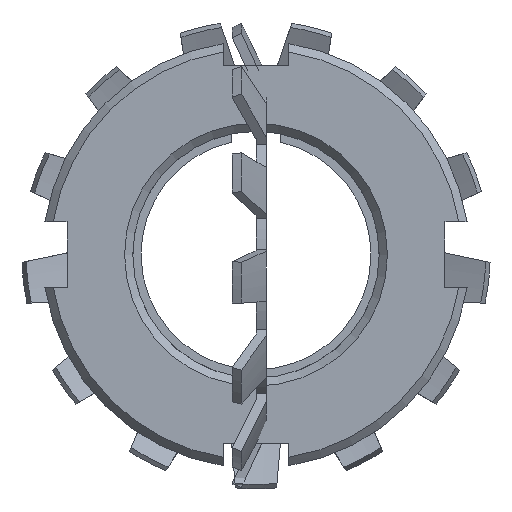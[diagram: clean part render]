
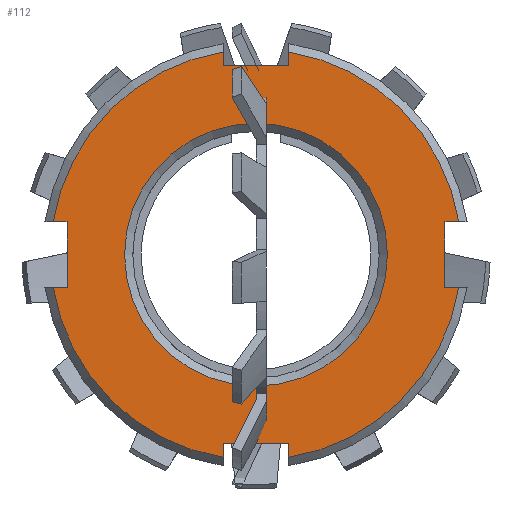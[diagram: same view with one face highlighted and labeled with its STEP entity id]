
A CAD part, front view. The second image highlights one B-rep face of the part: STEP entity #112.
In plain terms, the highlighted planar face has unit normal (0, -1, 0).
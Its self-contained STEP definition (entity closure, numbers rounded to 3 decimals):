
#112 = ADVANCED_FACE( '', ( #228, #229 ), #230, .F. );
#228 = FACE_BOUND( '', #358, .T. );
#229 = FACE_OUTER_BOUND( '', #359, .T. );
#230 = PLANE( '', #360 );
#358 = EDGE_LOOP( '', ( #666 ) );
#359 = EDGE_LOOP( '', ( #667, #668, #669, #670, #671, #672, #673, #674, #675, #676, #677, #678, #679, #680, #681, #682 ) );
#360 = AXIS2_PLACEMENT_3D( '', #683, #684, #685 );
#666 = ORIENTED_EDGE( '', *, *, #1070, .F. );
#667 = ORIENTED_EDGE( '', *, *, #1091, .F. );
#668 = ORIENTED_EDGE( '', *, *, #1063, .T. );
#669 = ORIENTED_EDGE( '', *, *, #1013, .T. );
#670 = ORIENTED_EDGE( '', *, *, #1092, .T. );
#671 = ORIENTED_EDGE( '', *, *, #1093, .F. );
#672 = ORIENTED_EDGE( '', *, *, #1053, .T. );
#673 = ORIENTED_EDGE( '', *, *, #1019, .T. );
#674 = ORIENTED_EDGE( '', *, *, #1041, .T. );
#675 = ORIENTED_EDGE( '', *, *, #1046, .F. );
#676 = ORIENTED_EDGE( '', *, *, #1094, .T. );
#677 = ORIENTED_EDGE( '', *, *, #1072, .T. );
#678 = ORIENTED_EDGE( '', *, *, #1051, .T. );
#679 = ORIENTED_EDGE( '', *, *, #1095, .F. );
#680 = ORIENTED_EDGE( '', *, *, #1096, .T. );
#681 = ORIENTED_EDGE( '', *, *, #1097, .T. );
#682 = ORIENTED_EDGE( '', *, *, #1098, .T. );
#683 = CARTESIAN_POINT( '', ( 0., -8.75, 26. ) );
#684 = DIRECTION( '', ( 0., 1., 0. ) );
#685 = DIRECTION( '', ( 0., 0., 1. ) );
#1013 = EDGE_CURVE( '', #1317, #1315, #1318, .T. );
#1019 = EDGE_CURVE( '', #1328, #1326, #1329, .T. );
#1041 = EDGE_CURVE( '', #1326, #1362, #1364, .F. );
#1046 = EDGE_CURVE( '', #1370, #1362, #1372, .T. );
#1051 = EDGE_CURVE( '', #1375, #1379, #1381, .F. );
#1053 = EDGE_CURVE( '', #1383, #1328, #1384, .T. );
#1063 = EDGE_CURVE( '', #1399, #1317, #1400, .T. );
#1070 = EDGE_CURVE( '', #1409, #1409, #1410, .T. );
#1072 = EDGE_CURVE( '', #1412, #1375, #1413, .T. );
#1091 = EDGE_CURVE( '', #1399, #1442, #1443, .T. );
#1092 = EDGE_CURVE( '', #1315, #1444, #1445, .F. );
#1093 = EDGE_CURVE( '', #1383, #1444, #1446, .T. );
#1094 = EDGE_CURVE( '', #1370, #1412, #1447, .T. );
#1095 = EDGE_CURVE( '', #1448, #1379, #1449, .T. );
#1096 = EDGE_CURVE( '', #1448, #1450, #1451, .T. );
#1097 = EDGE_CURVE( '', #1450, #1452, #1453, .T. );
#1098 = EDGE_CURVE( '', #1452, #1442, #1454, .F. );
#1315 = VERTEX_POINT( '', #2251 );
#1317 = VERTEX_POINT( '', #2259 );
#1318 = LINE( '', #2260, #2261 );
#1326 = VERTEX_POINT( '', #2274 );
#1328 = VERTEX_POINT( '', #2282 );
#1329 = LINE( '', #2283, #2284 );
#1362 = VERTEX_POINT( '', #2337 );
#1364 = CIRCLE( '', #2345, 25. );
#1370 = VERTEX_POINT( '', #2355 );
#1372 = LINE( '', #2358, #2359 );
#1375 = VERTEX_POINT( '', #2362 );
#1379 = VERTEX_POINT( '', #2372 );
#1381 = CIRCLE( '', #2380, 25. );
#1383 = VERTEX_POINT( '', #2382 );
#1384 = LINE( '', #2383, #2384 );
#1399 = VERTEX_POINT( '', #2409 );
#1400 = LINE( '', #2410, #2411 );
#1409 = VERTEX_POINT( '', #2428 );
#1410 = CIRCLE( '', #2429, 16. );
#1412 = VERTEX_POINT( '', #2431 );
#1413 = LINE( '', #2432, #2433 );
#1442 = VERTEX_POINT( '', #2496 );
#1443 = LINE( '', #2497, #2498 );
#1444 = VERTEX_POINT( '', #2499 );
#1445 = CIRCLE( '', #2500, 25. );
#1446 = LINE( '', #2501, #2502 );
#1447 = LINE( '', #2503, #2504 );
#1448 = VERTEX_POINT( '', #2505 );
#1449 = LINE( '', #2506, #2507 );
#1450 = VERTEX_POINT( '', #2508 );
#1451 = LINE( '', #2509, #2510 );
#1452 = VERTEX_POINT( '', #2511 );
#1453 = LINE( '', #2512, #2513 );
#1454 = CIRCLE( '', #2514, 25. );
#2251 = CARTESIAN_POINT( '', ( -24.678, -8.75, -4. ) );
#2259 = CARTESIAN_POINT( '', ( -23., -8.75, -4. ) );
#2260 = CARTESIAN_POINT( '', ( -26., -8.75, -4. ) );
#2261 = VECTOR( '', #2840, 1000. );
#2274 = CARTESIAN_POINT( '', ( 4., -8.75, -24.678 ) );
#2282 = CARTESIAN_POINT( '', ( 4., -8.75, -23. ) );
#2283 = CARTESIAN_POINT( '', ( 4., -8.75, -26. ) );
#2284 = VECTOR( '', #2843, 1000. );
#2337 = CARTESIAN_POINT( '', ( 24.678, -8.75, -4. ) );
#2345 = AXIS2_PLACEMENT_3D( '', #2864, #2865, #2866 );
#2355 = CARTESIAN_POINT( '', ( 23., -8.75, -4. ) );
#2358 = CARTESIAN_POINT( '', ( 26., -8.75, -4. ) );
#2359 = VECTOR( '', #2869, 1000. );
#2362 = CARTESIAN_POINT( '', ( 24.678, -8.75, 4. ) );
#2372 = CARTESIAN_POINT( '', ( 4., -8.75, 24.678 ) );
#2380 = AXIS2_PLACEMENT_3D( '', #2873, #2874, #2875 );
#2382 = CARTESIAN_POINT( '', ( -4., -8.75, -23. ) );
#2383 = CARTESIAN_POINT( '', ( -4., -8.75, -23. ) );
#2384 = VECTOR( '', #2876, 1000. );
#2409 = CARTESIAN_POINT( '', ( -23., -8.75, 4. ) );
#2410 = CARTESIAN_POINT( '', ( -23., -8.75, 4. ) );
#2411 = VECTOR( '', #2889, 1000. );
#2428 = CARTESIAN_POINT( '', ( 0., -8.75, -16. ) );
#2429 = AXIS2_PLACEMENT_3D( '', #2897, #2898, #2899 );
#2431 = CARTESIAN_POINT( '', ( 23., -8.75, 4. ) );
#2432 = CARTESIAN_POINT( '', ( 26., -8.75, 4. ) );
#2433 = VECTOR( '', #2900, 1000. );
#2496 = CARTESIAN_POINT( '', ( -24.678, -8.75, 4. ) );
#2497 = CARTESIAN_POINT( '', ( -26., -8.75, 4. ) );
#2498 = VECTOR( '', #2915, 1000. );
#2499 = CARTESIAN_POINT( '', ( -4., -8.75, -24.678 ) );
#2500 = AXIS2_PLACEMENT_3D( '', #2916, #2917, #2918 );
#2501 = CARTESIAN_POINT( '', ( -4., -8.75, -26. ) );
#2502 = VECTOR( '', #2919, 1000. );
#2503 = CARTESIAN_POINT( '', ( 23., -8.75, -4. ) );
#2504 = VECTOR( '', #2920, 1000. );
#2505 = CARTESIAN_POINT( '', ( 4., -8.75, 23. ) );
#2506 = CARTESIAN_POINT( '', ( 4., -8.75, 26. ) );
#2507 = VECTOR( '', #2921, 1000. );
#2508 = CARTESIAN_POINT( '', ( -4., -8.75, 23. ) );
#2509 = CARTESIAN_POINT( '', ( 4., -8.75, 23. ) );
#2510 = VECTOR( '', #2922, 1000. );
#2511 = CARTESIAN_POINT( '', ( -4., -8.75, 24.678 ) );
#2512 = CARTESIAN_POINT( '', ( -4., -8.75, 26. ) );
#2513 = VECTOR( '', #2923, 1000. );
#2514 = AXIS2_PLACEMENT_3D( '', #2924, #2925, #2926 );
#2840 = DIRECTION( '', ( -1., 0., 0. ) );
#2843 = DIRECTION( '', ( 0., 0., -1. ) );
#2864 = CARTESIAN_POINT( '', ( 0., -8.75, 0. ) );
#2865 = DIRECTION( '', ( 0., 1., 0. ) );
#2866 = DIRECTION( '', ( 0., 0., 1. ) );
#2869 = DIRECTION( '', ( 1., 0., 0. ) );
#2873 = CARTESIAN_POINT( '', ( 0., -8.75, 0. ) );
#2874 = DIRECTION( '', ( 0., 1., 0. ) );
#2875 = DIRECTION( '', ( 0., 0., 1. ) );
#2876 = DIRECTION( '', ( 1., 0., 0. ) );
#2889 = DIRECTION( '', ( 0., 0., -1. ) );
#2897 = CARTESIAN_POINT( '', ( 0., -8.75, 0. ) );
#2898 = DIRECTION( '', ( 0., -1., 0. ) );
#2899 = DIRECTION( '', ( 0., 0., -1. ) );
#2900 = DIRECTION( '', ( 1., 0., 0. ) );
#2915 = DIRECTION( '', ( -1., 0., 0. ) );
#2916 = CARTESIAN_POINT( '', ( 0., -8.75, 0. ) );
#2917 = DIRECTION( '', ( 0., 1., 0. ) );
#2918 = DIRECTION( '', ( 0., 0., 1. ) );
#2919 = DIRECTION( '', ( 0., 0., -1. ) );
#2920 = DIRECTION( '', ( 0., 0., 1. ) );
#2921 = DIRECTION( '', ( 0., 0., 1. ) );
#2922 = DIRECTION( '', ( -1., 0., 0. ) );
#2923 = DIRECTION( '', ( 0., 0., 1. ) );
#2924 = CARTESIAN_POINT( '', ( 0., -8.75, 0. ) );
#2925 = DIRECTION( '', ( 0., 1., 0. ) );
#2926 = DIRECTION( '', ( 0., 0., 1. ) );
